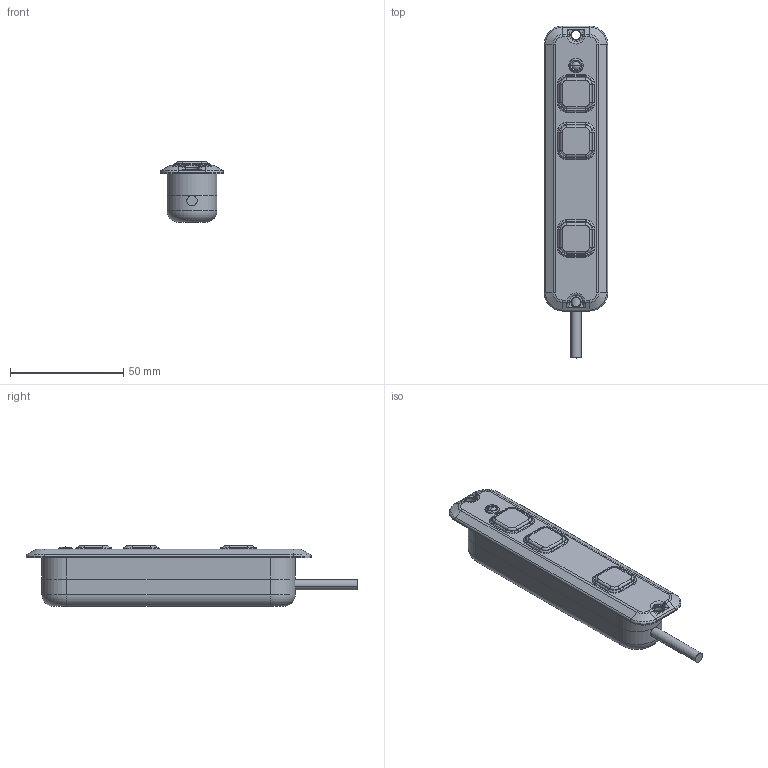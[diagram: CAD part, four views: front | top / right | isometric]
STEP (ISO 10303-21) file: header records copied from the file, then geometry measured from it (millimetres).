
FILE_DESCRIPTION (( 'STEP AP203' ), '1' );
FILE_NAME ('TH9.STEP', '2014-01-16T03:05:24', ( 'stanley' ), ( '' ), 'SwSTEP 2.0', 'SolidWorks 2010', '' );
FILE_SCHEMA (( 'CONFIG_CONTROL_DESIGN' ));
Length unit declared in the file: millimetre
Products named in the file (1): TH9
Bounding box: 28 x 146.71 x 26.7 mm (x, y, z)
Volume: 61575.7 mm3; surface area: 19289.7 mm2
Topology: 7 solids, 7 shells, 307 faces, 706 edges, 422 vertices
Faces by surface type: cylinder 129, torus 86, plane 72, bspline 10, cone 8, sphere 2
Entity records: 9185 total; most frequent: CARTESIAN_POINT 2035, DIRECTION 1626, ORIENTED_EDGE 1412, EDGE_CURVE 706, AXIS2_PLACEMENT_3D 671, VERTEX_POINT 422, CIRCLE 373, EDGE_LOOP 320
